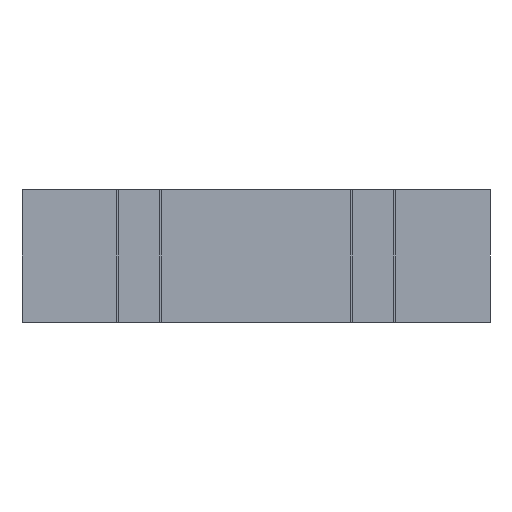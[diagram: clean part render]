
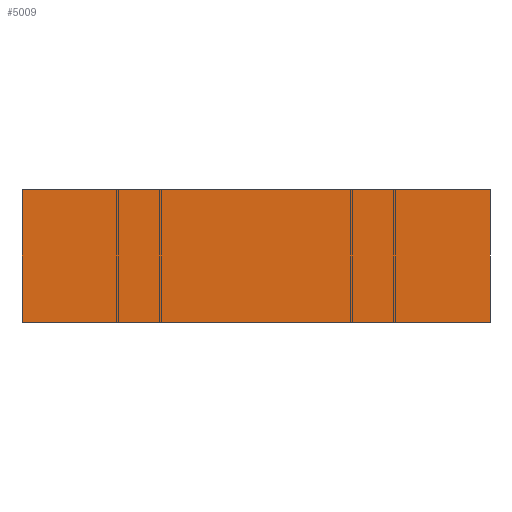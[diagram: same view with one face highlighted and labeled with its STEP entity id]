
A CAD part, left-side view. The second image highlights one B-rep face of the part: STEP entity #5009.
In plain terms, the highlighted planar face has unit normal (-1, 0, 0).
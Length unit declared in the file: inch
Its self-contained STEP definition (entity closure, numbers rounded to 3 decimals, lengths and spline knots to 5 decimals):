
#4953=CARTESIAN_POINT('',(-1.77165,-1.77165,1.0));
#4954=VERTEX_POINT('',#4953);
#4961=CARTESIAN_POINT('',(-1.77165,-1.77165,0.0));
#4962=VERTEX_POINT('',#4961);
#4963=CARTESIAN_POINT('',(-1.77165,-1.77165,0.0));
#4964=DIRECTION('',(0.0,0.0,1.0));
#4965=VECTOR('',#4964,1.0);
#4966=LINE('',#4963,#4965);
#4967=EDGE_CURVE('',#4962,#4954,#4966,.T.);
#4979=CARTESIAN_POINT('',(-1.77165,-1.77165,0.0));
#4980=DIRECTION('',(-1.0,0.0,0.0));
#4981=DIRECTION('',(0.0,0.0,1.0));
#4982=AXIS2_PLACEMENT_3D('',#4979,#4980,#4981);
#4983=PLANE('',#4982);
#4984=CARTESIAN_POINT('',(-1.77165,1.77165,1.0));
#4985=VERTEX_POINT('',#4984);
#4986=CARTESIAN_POINT('',(-1.77165,-1.77165,1.0));
#4987=DIRECTION('',(0.0,1.0,0.0));
#4988=VECTOR('',#4987,3.54331);
#4989=LINE('',#4986,#4988);
#4990=EDGE_CURVE('',#4954,#4985,#4989,.T.);
#4991=ORIENTED_EDGE('',*,*,#4990,.T.);
#4992=CARTESIAN_POINT('',(-1.77165,1.77165,0.0));
#4993=VERTEX_POINT('',#4992);
#4994=CARTESIAN_POINT('',(-1.77165,1.77165,0.0));
#4995=DIRECTION('',(0.0,0.0,1.0));
#4996=VECTOR('',#4995,1.0);
#4997=LINE('',#4994,#4996);
#4998=EDGE_CURVE('',#4993,#4985,#4997,.T.);
#4999=ORIENTED_EDGE('',*,*,#4998,.F.);
#5000=CARTESIAN_POINT('',(-1.77165,1.77165,0.0));
#5001=DIRECTION('',(0.0,-1.0,0.0));
#5002=VECTOR('',#5001,3.54331);
#5003=LINE('',#5000,#5002);
#5004=EDGE_CURVE('',#4993,#4962,#5003,.T.);
#5005=ORIENTED_EDGE('',*,*,#5004,.T.);
#5006=ORIENTED_EDGE('',*,*,#4967,.T.);
#5007=EDGE_LOOP('',(#4991,#4999,#5005,#5006));
#5008=FACE_OUTER_BOUND('',#5007,.T.);
#5009=ADVANCED_FACE('',(#5008),#4983,.T.);
